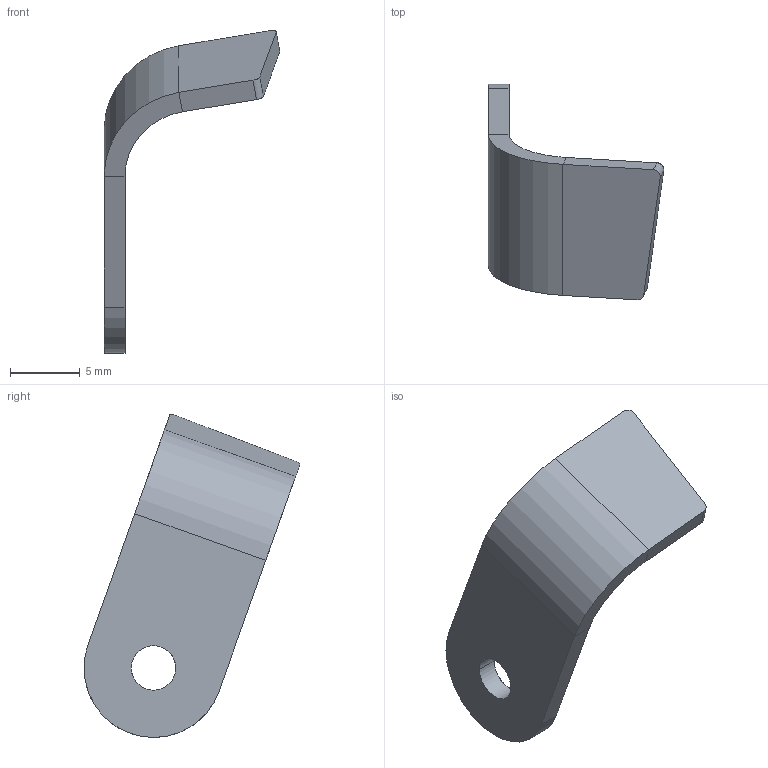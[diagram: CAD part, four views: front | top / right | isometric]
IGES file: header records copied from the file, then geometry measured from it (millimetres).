
Start section: START RECORD GO HERE.
Global section: file name: 20M_EL_04012 (chape tdb droite).igs; native system: 44HIBM CATIA IGES - CATIA Version 5 Release 19; preprocessor: CATIA Version 5 Release 19 ; author: mik75; organization: LAPTOP-SUH344G9; date: 20200123.184049; units: millimetre
Bounding box: 12.63 x 15.53 x 23.23 mm (x, y, z)
Surface area: 679.8 mm2 (no closed solid volume)
Topology: 0 solids, 0 shells, 18 faces, 82 edges, 83 vertices
Faces by surface type: plane 11, revolution 7
